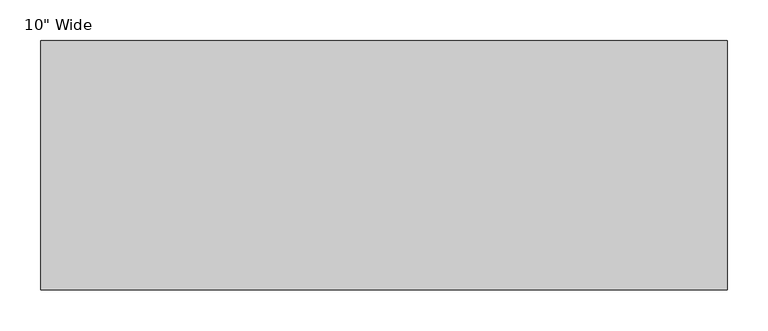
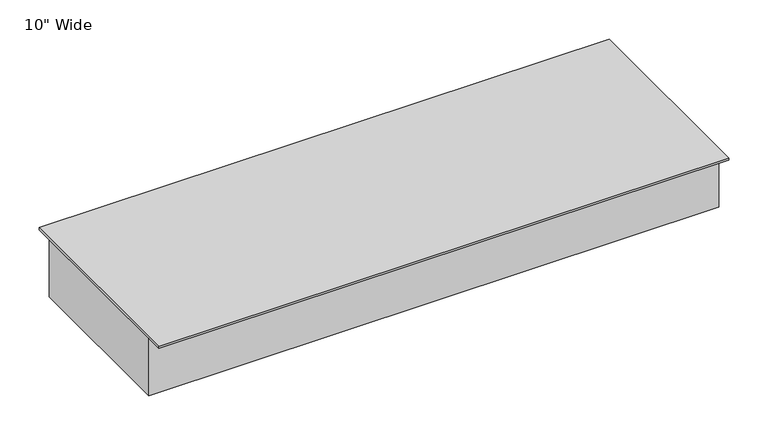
"""IFC4 building model written with IfcOpenShell, lengths in millimetres: proxy geometry."""

from ifc_helpers import new_model, si_unit, frame, origin, place, context, project, spatial, polyline, outline, extrude, source, transform, mapped, element, save


def proxy_10d260a6(model_context):
    return source(origin(), model_context, "Body", "SweptSolid", [
        extrude(outline(polyline([(838.2, 152.4), (838.2, -152.4), (0.0, -152.4), (0.0, 152.4), (838.2, 152.4)])), frame((0.0, 0.0, -3.175), z_axis=(0.0, 0.0, 1.0), x_axis=(1.0, 0.0, 0.0)), (0.0, 0.0, 1.0), 3.175),
        extrude(outline(polyline([(838.2, 127.0), (838.2, -127.0), (0.0, -127.0), (0.0, 127.0), (838.2, 127.0)])), frame((0.0, 0.0, -92.075), z_axis=(0.0, 0.0, 1.0), x_axis=(1.0, 0.0, 0.0)), (0.0, 0.0, 1.0), 88.9),
    ])


if __name__ == "__main__":
    model = new_model("IFC4")
    model_context = context("Model", 3, world=origin())
    ifc_project = project(units=[si_unit("LENGTHUNIT", "METRE", prefix="MILLI")], contexts=[model_context])
    site = spatial("IfcSite", under=ifc_project)
    building = spatial("IfcBuilding", under=site)
    placement = place(None, origin())
    proxy_shape = proxy_10d260a6(model_context)
    element("IfcBuildingElementProxy", 1, Name="Duct-Wallduct-Wiremold : 10\" Wide", ObjectType="Duct-Wallduct-Wiremold : 10\" Wide", at=placement, inside=building, context=model_context, shape_type="MappedRepresentation", body=[
        mapped(proxy_shape, transform((0.0, 0.0, 0.0), x_axis=(1.0, 0.0, 0.0), y_axis=(0.0, 1.0, 0.0), z_axis=(0.0, 0.0, 1.0))),
    ])
    save(model, "model.ifc")
